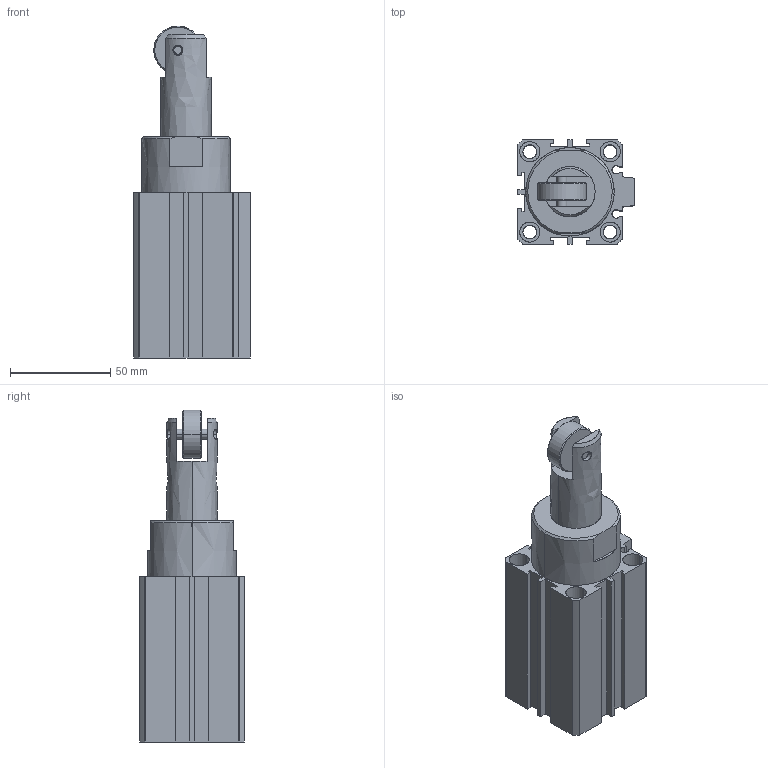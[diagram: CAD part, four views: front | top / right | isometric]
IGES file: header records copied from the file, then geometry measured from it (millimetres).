
Start section: SolidWorks IGES file using analytic representation for surfaces
Global section: file name: C:\Documents and Settings\admin\Bureau\stage de yaya\Plan Philippe Pince\PINCE\VUSB\pièces en 3D\VUSB STEP\ELOC-3DWG\ELOC-40-30-TIGE SORTIE.dwg.IGS; native system: SolidWorks 2007; preprocessor: SolidWorks 2007; author: admin; date: 080331.090456; units: millimetre
Bounding box: 58 x 52 x 165.2 mm (x, y, z)
Surface area: 57303.7 mm2 (no closed solid volume)
Topology: 0 solids, 0 shells, 848 faces, 10538 edges, 10576 vertices
Faces by surface type: bspline 775, revolution 73
